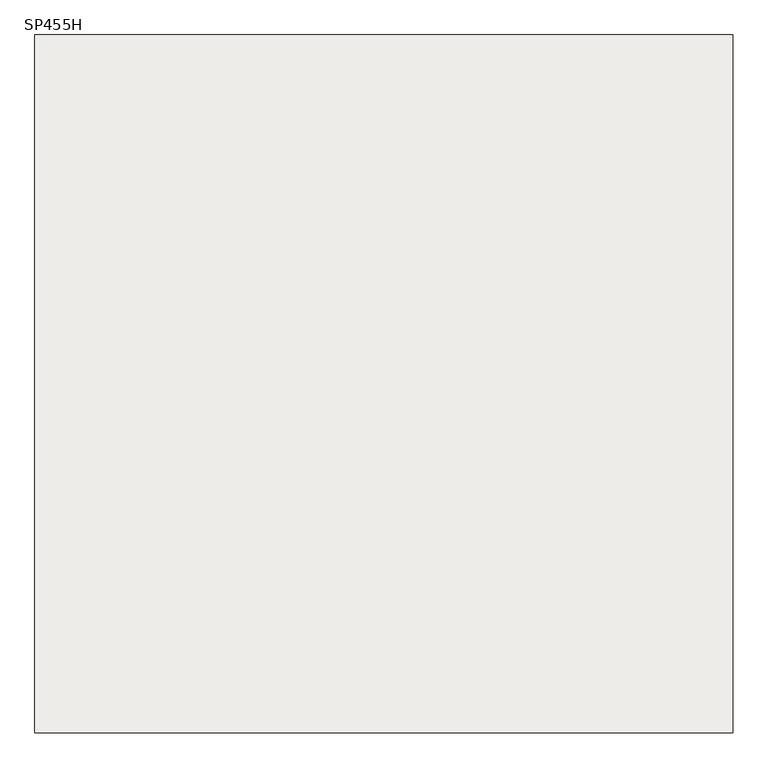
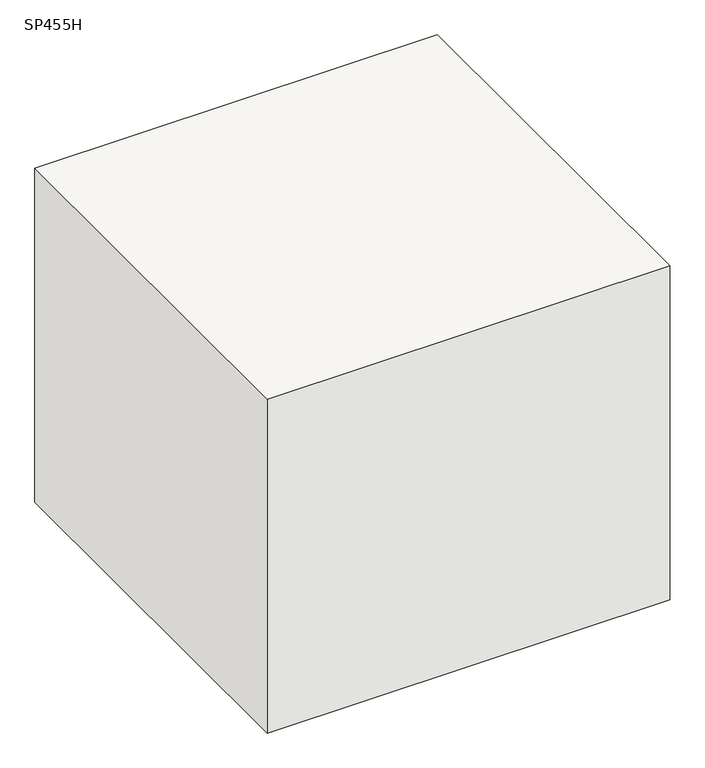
"""IFC4 building model written with IfcOpenShell, lengths in millimetres: slab geometry, 柱形_SP : SP455H."""

from ifc_helpers import new_model, si_unit, frame, origin, place, context, project, spatial, polyline, outline, extrude, source, transform, mapped, element, save


def sp455h_c88f138c(model_context):
    return source(origin(), model_context, "Body", "SweptSolid", [
        extrude(outline(polyline([(570.0, 570.0), (570.0, -570.0), (-570.0, -570.0), (-570.0, 570.0), (570.0, 570.0)])), frame((0.0, 0.0, -1000.0), z_axis=(0.0, 0.0, 1.0), x_axis=(1.0, 0.0, 0.0)), (0.0, 0.0, 1.0), 1000.0),
    ])


if __name__ == "__main__":
    model = new_model("IFC4")
    model_context = context("Model", 3, world=origin())
    ifc_project = project(units=[si_unit("LENGTHUNIT", "METRE", prefix="MILLI")], contexts=[model_context])
    site = spatial("IfcSite", under=ifc_project)
    building = spatial("IfcBuilding", under=site)
    placement = place(None, origin())
    sp455h_shape = sp455h_c88f138c(model_context)
    element("IfcSlab", 1, ObjectType="柱形_SP : SP455H", at=placement, inside=building, context=model_context, shape_type="MappedRepresentation", body=[
        mapped(sp455h_shape, transform((0.0, 0.0, 0.0), x_axis=(1.0, 0.0, 0.0), y_axis=(0.0, 1.0, 0.0), z_axis=(0.0, 0.0, 1.0))),
    ])
    save(model, "model.ifc")
